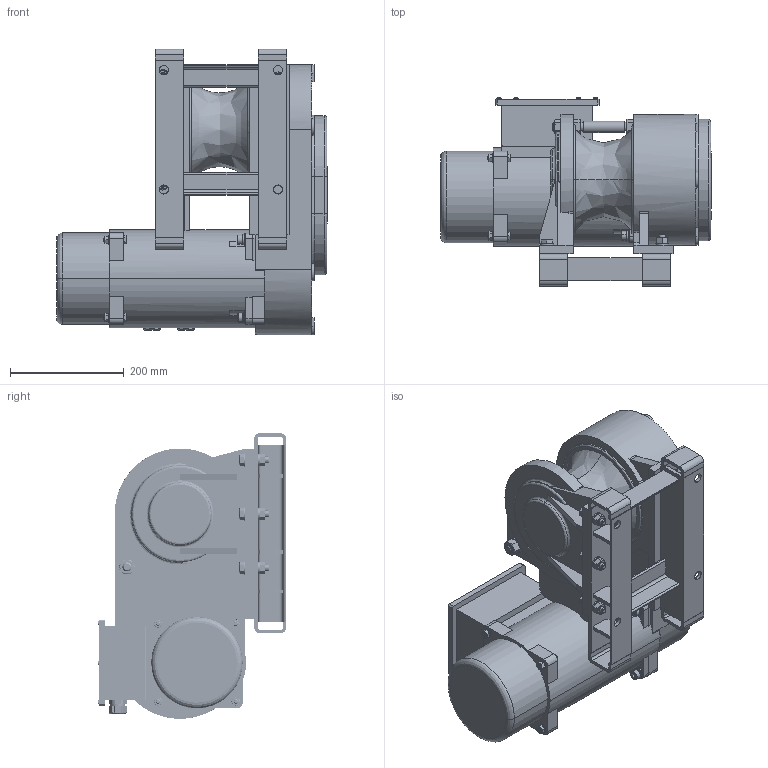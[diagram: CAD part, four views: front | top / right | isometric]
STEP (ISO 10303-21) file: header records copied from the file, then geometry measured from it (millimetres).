
FILE_DESCRIPTION( (''), '2;1');
FILE_NAME ('BMW-501-ED.stp','2023-05-15T16:46:20',(''),(''),'spGate 19.8.2 (****-****-****-****)','','');
FILE_SCHEMA (('AUTOMOTIVE_DESIGN'));
Length unit declared in the file: millimetre
Products named in the file (3): Assembly; BMW-501-ED-prt0; BMW-501-ED-prt1
Assembly tree (2 placements, depth 2):
  Assembly
    BMW-501-ED-prt0
    BMW-501-ED-prt1
Bounding box: 477 x 332.74 x 502.8 mm (x, y, z)
Volume: 25866060.2 mm3; surface area: 1312119.4 mm2
Topology: 1 solids, 1 shells, 2371 faces, 6435 edges, 4058 vertices
Faces by surface type: plane 1318, cylinder 735, bspline 294, sphere 24
Entity records: 186426 total; most frequent: CARTESIAN_POINT 81020, ORIENTED_EDGE 12774, DIRECTION 10492, COLOUR_RGB 8760, PRESENTATION_STYLE_ASSIGNMENT 8760, STYLED_ITEM 8760, EDGE_CURVE 6387, DRAUGHTING_PRE_DEFINED_CURVE_FONT 6387
